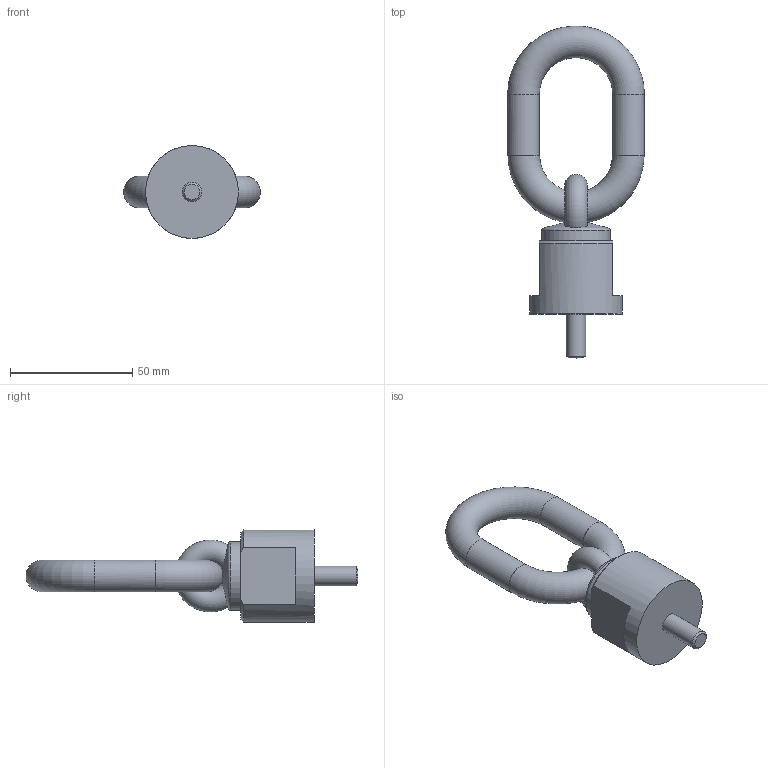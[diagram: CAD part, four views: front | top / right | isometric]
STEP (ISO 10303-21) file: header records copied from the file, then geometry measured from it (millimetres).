
FILE_DESCRIPTION( ( 'STEP AP203' ), '1' );
FILE_NAME( 'p:/temp/worker_15/temp/app_41_0201906261452230390615510e898ce_000000_00_00_000000/format_1/C800X0030818.stp', '2019-06-26T12:52:23', ( '' ), ( '' ), ' ', 'PARTsolutions', ' ' );
FILE_SCHEMA( ( 'CONFIG_CONTROL_DESIGN' ) );
Length unit declared in the file: millimetre
Products named in the file (1): _C800X0030818
Bounding box: 56 x 135.98 x 38 mm (x, y, z)
Volume: 63223.8 mm3; surface area: 14780.7 mm2
Topology: 1 solids, 1 shells, 27 faces, 65 edges, 40 vertices
Faces by surface type: plane 13, torus 5, cylinder 5, cone 4
Full cylindrical faces by diameter (mm): 8 x1, 13 x2, 28.2 x1, 38 x1
Entity records: 1032 total; most frequent: CARTESIAN_POINT 451, DIRECTION 114, ORIENTED_EDGE 94, AXIS2_PLACEMENT_3D 53, EDGE_CURVE 47, EDGE_LOOP 40, FACE_OUTER_BOUND 36, VERTEX_POINT 34
